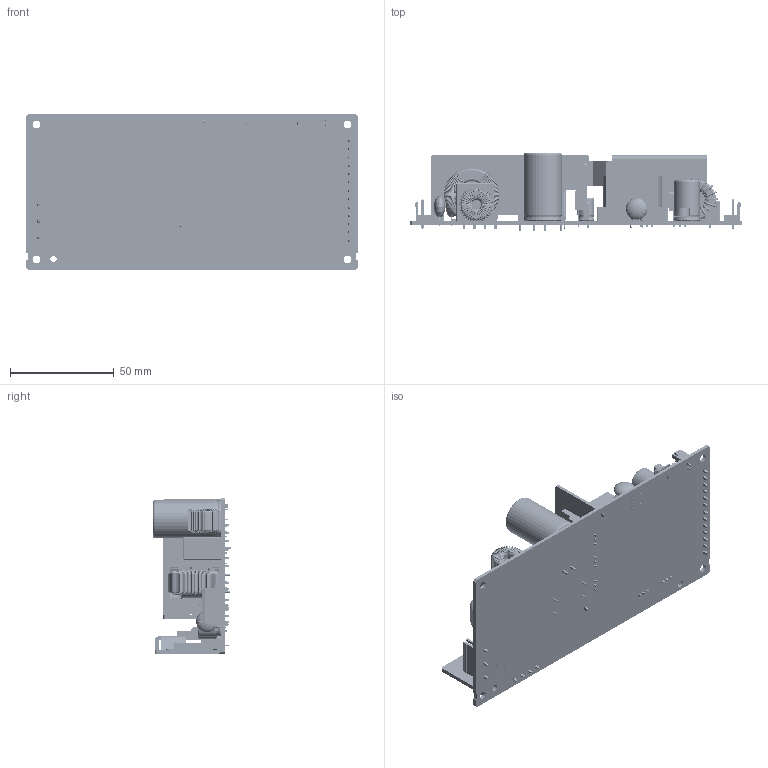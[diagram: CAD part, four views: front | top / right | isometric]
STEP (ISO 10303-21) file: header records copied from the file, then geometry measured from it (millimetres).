
FILE_DESCRIPTION((''),'2;1');
FILE_NAME('JAP_150W_OPEN','2012-11-16T',('ERIC.YP.CHEN'),(''),'PRO/ENGINEER BY PARAMETRIC TECHNOLOGY CORPORATION, 2010280','PRO/ENGINEER BY PARAMETRIC TECHNOLOGY CORPORATION, 2010280','');
FILE_SCHEMA(('CONFIG_CONTROL_DESIGN'));
Length unit declared in the file: millimetre
Products named in the file (1): JAP_150W_OPEN
Bounding box: 160 x 37.7 x 75 mm (x, y, z)
Volume: 98868.6 mm3; surface area: 72281.3 mm2
Topology: 22 solids, 34 shells, 4162 faces, 10448 edges, 6046 vertices
Faces by surface type: cylinder 1507, plane 1245, torus 1199, bspline 108, sphere 65, revolution 26, cone 12
Entity records: 148137 total; most frequent: CARTESIAN_POINT 47923, DIRECTION 22328, ORIENTED_EDGE 20570, EDGE_CURVE 10335, AXIS2_PLACEMENT_3D 8875, VERTEX_POINT 6046, CIRCLE 4846, VECTOR 4552
